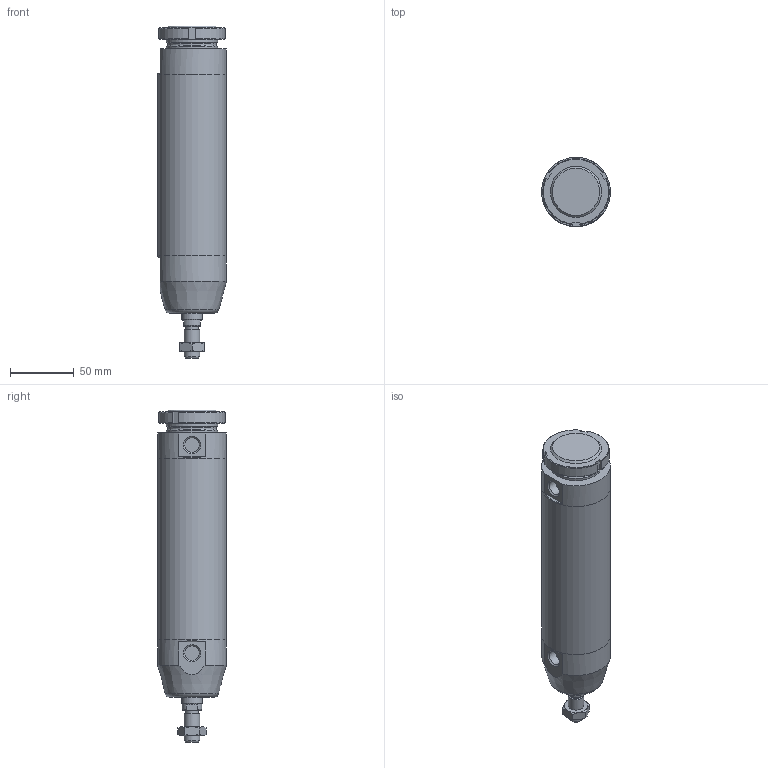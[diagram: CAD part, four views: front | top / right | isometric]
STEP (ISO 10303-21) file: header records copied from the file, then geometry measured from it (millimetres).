
FILE_DESCRIPTION(/* description */ (''),/* implementation_level */ '2;1');
FILE_NAME(/* name */ 'I:\Area Tecnica\Documenti\A-Manieri\_Inventor\12X\12X#B_###_####_#_#\12XAB_050_0100_#_#.stp',/* time_stamp */ '2015-04-27T16:25:22+02:00',/* author */ ('maniean1'),/* organization */ ('Pneumax S.p.A.'),/* preprocessor_version */ 'ST-DEVELOPER v15.2',/* originating_system */ 'Autodesk Inventor 2014',/* authorisation */ '');
FILE_SCHEMA (('AUTOMOTIVE_DESIGN { 1 0 10303 214 3 1 1 }'));
Length unit declared in the file: millimetre
Products named in the file (7): C1250_619-0100; 12X50_613; S12X50_0100; 12X_50_11; 12X50_620; G12X_050_05; 12XAB_050_0100_#_#
Bounding box: 54 x 54 x 260 mm (x, y, z)
Volume: 319616.6 mm3; surface area: 94764.5 mm2
Topology: 6 solids, 6 shells, 80 faces, 175 edges, 112 vertices
Faces by surface type: plane 40, cylinder 20, cone 19, torus 1
Full cylindrical faces by diameter (mm): 10.2 x1, 11.4 x2, 12 x2, 14 x1, 15.6 x1, 16 x1, 38.2 x1, 40 x3, 50 x2, 54 x3
Entity records: 2134 total; most frequent: CARTESIAN_POINT 399, DIRECTION 359, ORIENTED_EDGE 282, AXIS2_PLACEMENT_3D 154, EDGE_CURVE 141, EDGE_LOOP 122, VERTEX_POINT 107, ADVANCED_FACE 80
